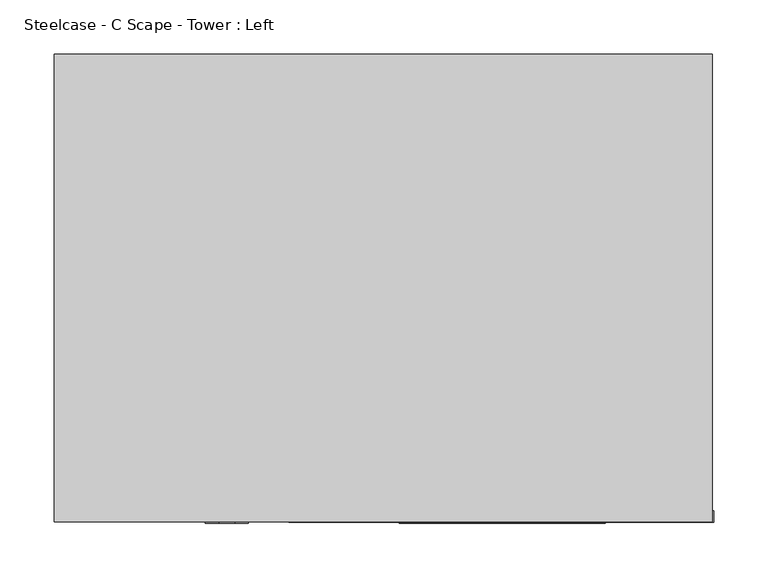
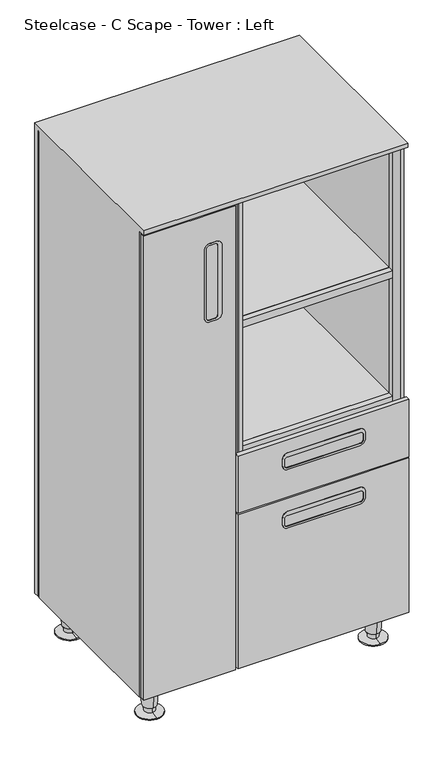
"""IFC4 building model written with IfcOpenShell, lengths in millimetres: furniture geometry, Steelcase - C Scape - Tower : Left."""

from ifc_helpers import new_model, si_unit, point, frame, frame_2d, origin, place, context, project, spatial, polyline, circle_curve, trimmed, segment, composite_curve, outline, extrude, faceted_brep, source, transform, mapped, element, save
from ifc_brep_helpers import plane_surface, cylinder_surface, revolved_surface, advanced_brep


def steelcase_c_scape_tower_left_5157d071(model_context):
    return source(origin(), model_context, "Body", "SolidModel", [
        extrude(outline(polyline([(11.4553938, -397.129), (21.4631163, -397.129), (21.4631163, -412.115), (9.415402, -419.3540543), (0.2711927, -419.3540543), (0.2711927, -414.9089767), (11.4553938, -414.9089767), (11.4553938, -397.129)])), frame((0.0, 0.0, 76.2), z_axis=(0.0, 0.0, 1.0), x_axis=(1.0, 0.0, 0.0)), (0.0, 0.0, 1.0), 1132.84),
        extrude(outline(polyline([(595.3505674, -397.129), (595.3505674, -414.9089767), (606.5347685, -414.9089767), (606.5347685, -419.3540543), (597.3905592, -419.3540543), (585.342845, -412.115), (585.342845, -397.129), (595.3505674, -397.129)])), frame((0.0, 0.0, 76.2), z_axis=(0.0, 0.0, 1.0), x_axis=(1.0, 0.0, 0.0)), (0.0, 0.0, 1.0), 1132.84),
        extrude(outline(polyline([(11.4553938, -35.9409322), (11.4553938, -18.1609554), (0.2711927, -18.1609554), (0.2711927, -13.7158779), (9.415402, -13.7158779), (21.4631163, -20.9549322), (21.4631163, -35.9409322), (11.4553938, -35.9409322)])), frame((0.0, 0.0, 76.2), z_axis=(0.0, 0.0, 1.0), x_axis=(1.0, 0.0, 0.0)), (0.0, 0.0, 1.0), 1132.84),
        extrude(outline(polyline([(595.3505674, -35.9409322), (585.342845, -35.9409322), (585.342845, -20.9549322), (597.3905592, -13.7158779), (606.5347685, -13.7158779), (606.5347685, -18.1609554), (595.3505674, -18.1609554), (595.3505674, -35.9409322)])), frame((0.0, 0.0, 76.2), z_axis=(0.0, 0.0, 1.0), x_axis=(1.0, 0.0, 0.0)), (0.0, 0.0, 1.0), 1132.84),
        faceted_brep([(607.695, 0.0, 1219.2), (-0.635, 0.0, 1219.2), (-0.635, -433.0699322, 1219.2), (607.695, -433.0699322, 1219.2), (607.695, -433.0699322, 1209.04), (-0.635, -433.0699322, 1209.04), (-0.635, -414.9089767, 1209.04), (11.4553938, -414.9089767, 1209.04), (11.4553938, -397.129, 1209.04), (21.5898062, -397.129, 1209.04), (21.5898062, -35.941, 1209.04), (11.4553938, -35.941, 1209.04), (11.4553938, -18.1610281, 1209.04), (-0.635, -18.1610281, 1209.04), (-0.635, -10.540999, 1209.04), (607.695, -10.540999, 1209.04), (607.695, -18.1610281, 1209.04), (595.3505674, -18.1610281, 1209.04), (595.3505674, -35.941, 1209.04), (585.3431163, -35.941, 1209.04), (585.3431163, -397.129, 1209.04), (595.3505674, -397.129, 1209.04), (595.3505674, -414.9089767, 1209.04), (607.695, -414.9089767, 1209.04), (607.822, 0.0, 76.2), (-0.508, 0.0, 76.2), (-0.635, -10.540999, 76.2), (-0.635, -18.1610281, 76.2), (-0.635, -414.9089767, 76.2), (607.695, -414.9089767, 76.2), (607.695, -18.1610281, 76.2), (607.695, -10.540999, 76.2), (11.4553938, -18.1610281, 76.2), (11.4553938, -35.941, 76.2), (21.5898062, -35.941, 76.2), (21.5898062, -397.129, 76.2), (11.4553938, -397.129, 76.2), (11.4553938, -414.9089767, 76.2), (595.3505674, -18.1610281, 76.2), (595.3505674, -414.9089767, 76.2), (595.3505674, -397.129, 76.2), (585.3431163, -397.129, 76.2), (585.3431163, -35.941, 76.2), (595.3505674, -35.941, 76.2)], [[[0, 1, 2, 3]], [[4, 5, 6, 7, 8, 9, 10, 11, 12, 13, 14, 15, 16, 17, 18, 19, 20, 21, 22, 23]], [[1, 0, 24, 25]], [[2, 1, 25, 26, 14, 13, 27, 28, 6, 5]], [[3, 2, 5, 4]], [[24, 0, 3, 4, 23, 29, 30, 16, 15, 31]], [[32, 33, 34, 35, 36, 37, 28, 27]], [[38, 30, 29, 39, 40, 41, 42, 43]], [[32, 27, 13, 12]], [[28, 37, 7, 6]], [[37, 36, 8, 7]], [[36, 35, 9, 8]], [[35, 34, 10, 9]], [[34, 33, 11, 10]], [[33, 32, 12, 11]], [[38, 43, 18, 17]], [[43, 42, 19, 18]], [[42, 41, 20, 19]], [[41, 40, 21, 20]], [[40, 39, 22, 21]], [[39, 29, 23, 22]], [[30, 38, 17, 16]], [[24, 31, 26, 25]], [[26, 31, 15, 14]]]),
        extrude(outline(composite_curve([segment(trimmed(circle_curve(frame_2d((394.970453, 496.3304102)), 12.7), [point((382.270453, 496.3304102))], [point((394.970453, 509.0304102))], False, "CARTESIAN"), True, "CONTINUOUS"), segment(polyline([(394.970453, 509.0304102), (409.5749879, 509.0304102)]), True, "CONTINUOUS"), segment(trimmed(circle_curve(frame_2d((409.5749879, 496.3304102)), 12.7), [point((409.5749879, 509.0304102))], [point((422.2749879, 496.3304102))], False, "CARTESIAN"), True, "CONTINUOUS"), segment(polyline([(422.2749879, 496.3304102), (422.2749879, 331.2303618)]), True, "CONTINUOUS"), segment(trimmed(circle_curve(frame_2d((409.5749879, 331.2303618)), 12.7), [point((422.2749879, 331.2303618))], [point((409.5749879, 318.5303618))], False, "CARTESIAN"), True, "CONTINUOUS"), segment(polyline([(409.5749879, 318.5303618), (394.970453, 318.5303618)]), True, "CONTINUOUS"), segment(trimmed(circle_curve(frame_2d((394.970453, 331.2303618)), 12.7), [point((394.970453, 318.5303618))], [point((382.270453, 331.2303618))], False, "CARTESIAN"), True, "CONTINUOUS"), segment(polyline([(382.270453, 331.2303618), (382.270453, 496.3304102)]), True, "CONTINUOUS")], self_intersect=False), holes=[composite_curve([segment(trimmed(circle_curve(frame_2d((406.146515, 497.8543966)), 6.35), [point((412.496515, 497.8543966))], [point((406.146515, 504.2043966))], True, "CARTESIAN"), True, "CONTINUOUS"), segment(polyline([(406.146515, 504.2043966), (393.4463212, 504.2043966)]), True, "CONTINUOUS"), segment(trimmed(circle_curve(frame_2d((393.4463212, 497.8543966)), 6.35), [point((393.4463212, 504.2043966))], [point((387.0963212, 497.8543966))], True, "CARTESIAN"), True, "CONTINUOUS"), segment(polyline([(387.0963212, 497.8543966), (387.0963212, 329.7063753)]), True, "CONTINUOUS"), segment(trimmed(circle_curve(frame_2d((393.4463212, 329.7063753)), 6.35), [point((387.0963212, 329.7063753))], [point((393.4463212, 323.3563753))], True, "CARTESIAN"), True, "CONTINUOUS"), segment(polyline([(393.4463212, 323.3563753), (406.146515, 323.3563753)]), True, "CONTINUOUS"), segment(trimmed(circle_curve(frame_2d((406.146515, 329.7063753)), 6.35), [point((406.146515, 323.3563753))], [point((412.496515, 329.7063753))], True, "CARTESIAN"), True, "CONTINUOUS"), segment(polyline([(412.496515, 329.7063753), (412.496515, 497.8543966)]), True, "CONTINUOUS")], self_intersect=False)]), frame((0.0, -434.3400581, 0.0), z_axis=(0.0, 1.0, 0.0), x_axis=(0.0, 0.0, 1.0)), (0.0, 0.0, 1.0), 1.270126),
        extrude(outline(composite_curve([segment(trimmed(circle_curve(frame_2d((537.2104627, 496.3304102)), 12.7), [point((524.5104627, 496.3304102))], [point((537.2104627, 509.0304102))], False, "CARTESIAN"), True, "CONTINUOUS"), segment(polyline([(537.2104627, 509.0304102), (551.8149976, 509.0304102)]), True, "CONTINUOUS"), segment(trimmed(circle_curve(frame_2d((551.8149976, 496.3304102)), 12.7), [point((551.8149976, 509.0304102))], [point((564.5149976, 496.3304102))], False, "CARTESIAN"), True, "CONTINUOUS"), segment(polyline([(564.5149976, 496.3304102), (564.5149976, 331.2303618)]), True, "CONTINUOUS"), segment(trimmed(circle_curve(frame_2d((551.8149976, 331.2303618)), 12.7), [point((564.5149976, 331.2303618))], [point((551.8149976, 318.5303618))], False, "CARTESIAN"), True, "CONTINUOUS"), segment(polyline([(551.8149976, 318.5303618), (537.2104627, 318.5303618)]), True, "CONTINUOUS"), segment(trimmed(circle_curve(frame_2d((537.2104627, 331.2303618)), 12.7), [point((537.2104627, 318.5303618))], [point((524.5104627, 331.2303618))], False, "CARTESIAN"), True, "CONTINUOUS"), segment(polyline([(524.5104627, 331.2303618), (524.5104627, 496.3304102)]), True, "CONTINUOUS")], self_intersect=False), holes=[composite_curve([segment(trimmed(circle_curve(frame_2d((548.3865247, 497.8543966)), 6.35), [point((554.7365247, 497.8543966))], [point((548.3865247, 504.2043966))], True, "CARTESIAN"), True, "CONTINUOUS"), segment(polyline([(548.3865247, 504.2043966), (535.6863309, 504.2043966)]), True, "CONTINUOUS"), segment(trimmed(circle_curve(frame_2d((535.6863309, 497.8543966)), 6.35), [point((535.6863309, 504.2043966))], [point((529.3363309, 497.8543966))], True, "CARTESIAN"), True, "CONTINUOUS"), segment(polyline([(529.3363309, 497.8543966), (529.3363309, 329.7063753)]), True, "CONTINUOUS"), segment(trimmed(circle_curve(frame_2d((535.6863309, 329.7063753)), 6.35), [point((529.3363309, 329.7063753))], [point((535.6863309, 323.3563753))], True, "CARTESIAN"), True, "CONTINUOUS"), segment(polyline([(535.6863309, 323.3563753), (548.3865247, 323.3563753)]), True, "CONTINUOUS"), segment(trimmed(circle_curve(frame_2d((548.3865247, 329.7063753)), 6.35), [point((548.3865247, 323.3563753))], [point((554.7365247, 329.7063753))], True, "CARTESIAN"), True, "CONTINUOUS"), segment(polyline([(554.7365247, 329.7063753), (554.7365247, 497.8543966)]), True, "CONTINUOUS")], self_intersect=False)]), frame((0.0, -434.3400581, 0.0), z_axis=(0.0, 1.0, 0.0), x_axis=(0.0, 0.0, 1.0)), (0.0, 0.0, 1.0), 1.270126),
        extrude(outline(polyline([(609.4726434, -422.5290058), (609.4726434, -433.0699322), (216.535, -433.0699322), (216.535, -422.5290058), (609.4726434, -422.5290058)])), frame((0.0, 0.0, 79.374997), z_axis=(0.0, 0.0, 1.0), x_axis=(1.0, 0.0, 0.0)), (0.0, 0.0, 1.0), 374.6500151),
        extrude(outline(polyline([(609.4726434, -422.5290058), (609.4726434, -433.0699322), (216.535, -433.0699322), (216.535, -422.5290058), (609.4726434, -422.5290058)])), frame((0.0, 0.0, 457.2), z_axis=(0.0, 0.0, 1.0), x_axis=(1.0, 0.0, 0.0)), (0.0, 0.0, 1.0), 139.0649855),
        extrude(outline(polyline([(210.693, -422.5290058), (210.693, -433.0699322), (-0.0001473, -433.0699322), (-0.0001473, -422.5290058), (210.693, -422.5290058)])), frame((0.0, 0.0, 79.374997), z_axis=(0.0, 0.0, 1.0), x_axis=(1.0, 0.0, 0.0)), (0.0, 0.0, 1.0), 1126.4899885),
        faceted_brep([(21.5898062, -397.129, 92.7100024), (21.5898062, -35.941, 92.7100024), (21.5898062, -35.941, 76.2), (21.5898062, -397.129, 76.2), (21.5898062, -397.1289574, 903.7827702), (21.5898062, -35.941, 903.7827702), (21.5898062, -35.941, 887.2727411), (21.5898062, -397.1289574, 887.2727411), (21.5898062, -397.129, 599.4400097), (21.5898062, -35.941, 599.4400097), (21.5898062, -35.941, 583.8444137), (21.5898062, -397.129, 583.8444137), (585.4699225, -397.129, 92.7100024), (585.4699225, -397.129, 76.2), (585.4699225, -35.941, 76.2), (585.4699225, -35.941, 92.7100024), (585.4699225, -397.1289574, 903.7827702), (585.4699225, -397.1289574, 887.2727411), (585.4699225, -35.941, 887.2727411), (585.4699225, -35.941, 903.7827702), (585.4699225, -397.129, 599.4400097), (585.4699225, -397.129, 583.8444137), (585.4699225, -35.941, 583.8444137), (585.4699225, -35.941, 599.4400097), (212.725, -397.129, 92.7100024), (212.725, -35.941, 92.7100024), (234.9498062, -35.941, 92.7100024), (234.9498062, -397.129, 92.7100024), (234.9498062, -397.129, 583.8444137), (234.9498062, -397.129, 599.4400097), (234.9498062, -397.129, 887.2727411), (234.9498062, -397.129, 903.7827702), (234.9498062, -397.129, 1192.5299709), (212.725, -397.129, 1192.5299709), (212.725, -397.129, 903.7827702), (212.725, -397.129, 887.2727411), (212.725, -397.129, 599.4400097), (212.725, -397.129, 583.8444137), (212.725, -35.941, 903.7827702), (234.9498062, -35.941, 903.7827702), (212.725, -35.941, 887.2727411), (234.9498062, -35.941, 887.2727411), (212.725, -35.941, 599.4400097), (234.9498062, -35.941, 599.4400097), (212.725, -35.941, 583.8444137), (234.9498062, -35.941, 583.8444137), (234.9498062, -18.1610281, 1192.5299709), (212.725, -18.1610281, 1192.5299709), (212.725, -18.1610281, 92.7100024), (234.9498062, -18.1610281, 92.7100024)], [[[0, 1, 2, 3]], [[4, 5, 6, 7]], [[8, 9, 10, 11]], [[12, 13, 14, 15]], [[16, 17, 18, 19]], [[20, 21, 22, 23]], [[1, 0, 24, 25]], [[12, 15, 26, 27]], [[2, 1, 25, 26, 15, 14]], [[3, 2, 14, 13]], [[0, 3, 13, 12, 27, 28, 21, 20, 29, 30, 17, 16, 31, 32, 33, 34, 4, 7, 35, 36, 8, 11, 37, 24]], [[5, 4, 34, 38]], [[16, 19, 39, 31]], [[6, 5, 38, 40]], [[19, 18, 41, 39]], [[7, 6, 40, 35]], [[18, 17, 30, 41]], [[9, 8, 36, 42]], [[20, 23, 43, 29]], [[10, 9, 42, 44]], [[23, 22, 45, 43]], [[11, 10, 44, 37]], [[22, 21, 28, 45]], [[46, 47, 33, 32]], [[48, 49, 26, 25]], [[47, 46, 49, 48]], [[33, 47, 48, 25, 24, 37, 44, 42, 36, 35, 40, 38, 34]], [[46, 32, 31, 39, 41, 30, 29, 43, 45, 28, 27, 26, 49]]]),
        faceted_brep([(585.47, -35.9409109, 1209.0400097), (585.47, -35.9409109, 1192.5299806), (585.47, -21.7168217, 1192.5299806), (585.47, -21.7168217, 1209.0400097), (21.5898062, -35.9409109, 1209.0400097), (21.5898062, -21.7168217, 1209.0400097), (21.5898062, -21.7168217, 1192.5299806), (21.5898062, -35.9409109, 1192.5299806)], [[[0, 1, 2, 3]], [[4, 5, 6, 7]], [[1, 0, 4, 7]], [[2, 1, 7, 6]], [[3, 2, 6, 5]], [[0, 3, 5, 4]]]),
        faceted_brep([(585.47, -411.3529438, 1209.0400097), (585.47, -411.3529438, 1192.5299806), (585.47, -397.1289574, 1192.5299806), (585.47, -397.1289574, 1209.0400097), (585.47, -411.3529438, 599.4400097), (585.47, -411.3529438, 583.8444137), (585.47, -397.1289574, 583.8444137), (585.47, -397.1289574, 599.4400097), (585.47, -411.3529438, 92.7100024), (585.47, -411.3529438, 76.2), (585.47, -397.1289574, 76.2), (585.47, -397.1289574, 92.7100024), (585.47, -411.3529438, 903.7827702), (585.47, -411.3529438, 887.2727411), (585.47, -397.1289574, 887.2727411), (585.47, -397.1289574, 903.7827702), (21.5898062, -411.3529438, 1209.0400097), (21.5898062, -397.1289574, 1209.0400097), (21.5898062, -397.1289574, 1192.5299806), (21.5898062, -411.3529438, 1192.5299806), (21.5898062, -411.3529438, 599.4400097), (21.5898062, -397.1289574, 599.4400097), (21.5898062, -397.1289574, 583.8444137), (21.5898062, -411.3529438, 583.8444137), (21.5898062, -411.3529438, 92.7100024), (21.5898062, -397.1289574, 92.7100024), (21.5898062, -397.1289574, 76.2), (21.5898062, -411.3529438, 76.2), (21.5898062, -411.3529438, 903.7827702), (21.5898062, -397.1289574, 903.7827702), (21.5898062, -397.1289574, 887.2727411), (21.5898062, -411.3529438, 887.2727411), (234.9498062, -411.3529438, 1209.0400097), (234.9498062, -411.3529438, 1192.5299806), (212.725, -411.3529438, 1192.5299806), (212.725, -411.3529438, 1209.0400097), (234.9498062, -397.1289574, 1192.5299806), (212.725, -397.1289574, 1192.5299806), (234.9498062, -397.1289574, 903.7827702), (234.9498062, -397.1289574, 887.2727411), (234.9498062, -397.1289574, 599.4400097), (234.9498062, -397.1289574, 583.8444137), (234.9498062, -397.1289574, 92.71), (212.725, -397.1289574, 92.7100024), (212.725, -397.1289574, 583.8444137), (212.725, -397.1289574, 599.4400097), (212.725, -397.1289574, 887.2727411), (212.725, -397.1289574, 903.7827702), (212.725, -419.3540543, 1209.0400097), (222.411618, -419.3540543, 1209.0400097), (223.8374031, -418.5308579, 1209.0400097), (225.2631882, -419.3540543, 1209.0400097), (234.9498062, -419.3540543, 1209.0400097), (234.9498062, -411.3529438, 599.4400097), (234.9498062, -411.3529438, 583.8444137), (212.725, -411.3529438, 583.8444137), (212.725, -411.3529438, 599.4400097), (234.9498062, -411.3529438, 92.7100024), (212.725, -411.3529438, 92.71), (234.9498062, -411.3529438, 903.7827702), (234.9498062, -411.3529438, 887.2727411), (212.725, -411.3529438, 887.2727411), (212.725, -411.3529438, 903.7827702), (234.9498062, -419.3540543, 92.71), (225.2631882, -419.3540543, 92.71), (223.8374031, -418.5308579, 92.71), (222.411618, -419.3540543, 92.71), (212.725, -419.3540543, 92.71)], [[[0, 1, 2, 3]], [[4, 5, 6, 7]], [[8, 9, 10, 11]], [[12, 13, 14, 15]], [[16, 17, 18, 19]], [[20, 21, 22, 23]], [[24, 25, 26, 27]], [[28, 29, 30, 31]], [[1, 0, 32, 33]], [[16, 19, 34, 35]], [[2, 1, 33, 36]], [[19, 18, 37, 34]], [[17, 3, 2, 36, 38, 15, 14, 39, 40, 7, 6, 41, 42, 11, 10, 26, 25, 43, 44, 22, 21, 45, 46, 30, 29, 47, 37, 18]], [[0, 3, 17, 16, 35, 48, 49, 50, 51, 52, 32]], [[5, 4, 53, 54]], [[20, 23, 55, 56]], [[6, 5, 54, 41]], [[23, 22, 44, 55]], [[4, 7, 40, 53]], [[21, 20, 56, 45]], [[9, 8, 57, 58, 24, 27]], [[10, 9, 27, 26]], [[8, 11, 42, 57]], [[25, 24, 58, 43]], [[13, 12, 59, 60]], [[28, 31, 61, 62]], [[14, 13, 60, 39]], [[31, 30, 46, 61]], [[12, 15, 38, 59]], [[29, 28, 62, 47]], [[63, 64, 65, 66, 67, 58, 57]], [[48, 35, 34, 37, 47, 62, 61, 46, 45, 56, 55, 44, 43, 58, 67]], [[64, 51, 50, 65]], [[52, 51, 64, 63]], [[32, 52, 63, 57, 42, 41, 54, 53, 40, 39, 60, 59, 38, 36, 33]], [[49, 48, 67, 66]], [[49, 66, 65, 50]]]),
        faceted_brep([(585.47, -35.9409109, 599.4400097), (585.47, -35.9409109, 583.8444137), (585.47, -21.7168217, 583.8444137), (585.47, -21.7168217, 599.4400097), (21.5898062, -35.9409109, 599.4400097), (21.5898062, -21.7168217, 599.4400097), (21.5898062, -21.7168217, 583.8444137), (21.5898062, -35.9409109, 583.8444137)], [[[0, 1, 2, 3]], [[4, 5, 6, 7]], [[1, 0, 4, 7]], [[2, 1, 7, 6]], [[3, 2, 6, 5]], [[0, 3, 5, 4]]]),
        faceted_brep([(585.47, -35.9409109, 92.7100024), (585.47, -35.9409109, 76.2), (585.47, -21.7168217, 76.2), (585.47, -21.7168217, 92.7100024), (21.5898062, -35.9409109, 92.7100024), (21.5898062, -21.7168217, 92.7100024), (21.5898062, -21.7168217, 76.2), (21.5898062, -35.9409109, 76.2)], [[[0, 1, 2, 3]], [[4, 5, 6, 7]], [[1, 0, 4, 7]], [[2, 1, 7, 6]], [[3, 2, 6, 5]], [[0, 3, 5, 4]]]),
        faceted_brep([(585.47, -35.9409109, 903.7827702), (585.47, -35.9409109, 887.2727411), (585.47, -21.7168217, 887.2727411), (585.47, -21.7168217, 903.7827702), (21.5898062, -35.9409109, 903.7827702), (21.5898062, -21.7168217, 903.7827702), (21.5898062, -21.7168217, 887.2727411), (21.5898062, -35.9409109, 887.2727411)], [[[0, 1, 2, 3]], [[4, 5, 6, 7]], [[1, 0, 4, 7]], [[2, 1, 7, 6]], [[3, 2, 6, 5]], [[0, 3, 5, 4]]]),
        extrude(outline(composite_curve([segment(trimmed(circle_curve(frame_2d((958.2149855, 151.7650465)), 12.7), [point((958.2149855, 139.0650465))], [point((945.5149855, 151.7650465))], False, "CARTESIAN"), True, "CONTINUOUS"), segment(polyline([(945.5149855, 151.7650465), (945.5149855, 166.3695814)]), True, "CONTINUOUS"), segment(trimmed(circle_curve(frame_2d((958.2149855, 166.3695814)), 12.7), [point((945.5149855, 166.3695814))], [point((958.2149855, 179.0695814))], False, "CARTESIAN"), True, "CONTINUOUS"), segment(polyline([(958.2149855, 179.0695814), (1123.3150339, 179.0695814)]), True, "CONTINUOUS"), segment(trimmed(circle_curve(frame_2d((1123.3150339, 166.3695814)), 12.7), [point((1123.3150339, 179.0695814))], [point((1136.0150339, 166.3695814))], False, "CARTESIAN"), True, "CONTINUOUS"), segment(polyline([(1136.0150339, 166.3695814), (1136.0150339, 151.7650465)]), True, "CONTINUOUS"), segment(trimmed(circle_curve(frame_2d((1123.3150339, 151.7650465)), 12.7), [point((1136.0150339, 151.7650465))], [point((1123.3150339, 139.0650465))], False, "CARTESIAN"), True, "CONTINUOUS"), segment(polyline([(1123.3150339, 139.0650465), (958.2149855, 139.0650465)]), True, "CONTINUOUS")], self_intersect=False), holes=[composite_curve([segment(trimmed(circle_curve(frame_2d((956.690999, 162.9411085)), 6.35), [point((956.690999, 169.2911085))], [point((950.340999, 162.9411085))], True, "CARTESIAN"), True, "CONTINUOUS"), segment(polyline([(950.340999, 162.9411085), (950.340999, 150.2409147)]), True, "CONTINUOUS"), segment(trimmed(circle_curve(frame_2d((956.690999, 150.2409147)), 6.35), [point((950.340999, 150.2409147))], [point((956.690999, 143.8909147))], True, "CARTESIAN"), True, "CONTINUOUS"), segment(polyline([(956.690999, 143.8909147), (1124.8390203, 143.8909147)]), True, "CONTINUOUS"), segment(trimmed(circle_curve(frame_2d((1124.8390203, 150.2409147)), 6.35), [point((1124.8390203, 143.8909147))], [point((1131.1890203, 150.2409147))], True, "CARTESIAN"), True, "CONTINUOUS"), segment(polyline([(1131.1890203, 150.2409147), (1131.1890203, 162.9411085)]), True, "CONTINUOUS"), segment(trimmed(circle_curve(frame_2d((1124.8390203, 162.9411085)), 6.35), [point((1131.1890203, 162.9411085))], [point((1124.8390203, 169.2911085))], True, "CARTESIAN"), True, "CONTINUOUS"), segment(polyline([(1124.8390203, 169.2911085), (956.690999, 169.2911085)]), True, "CONTINUOUS")], self_intersect=False)]), frame((0.0, -434.3400581, 0.0), z_axis=(0.0, 1.0, 0.0), x_axis=(0.0, 0.0, 1.0)), (0.0, 0.0, 1.0), 1.270126),
        advanced_brep(
        [(560.3960034, -27.3797531, 0.0), (560.3960034, -86.6051932, 0.0), (560.3960034, -56.9924731, 0.0), (560.3960034, -27.3797531, 2.6912335), (560.3960034, -86.6051932, 2.6912335), (560.3960034, -45.0348855, 5.8043097), (560.3960034, -68.9500608, 5.8043097), (560.3960034, -44.3407082, 19.05), (560.3960034, -69.6442381, 19.05), (560.3960034, -41.6146125, 19.05), (560.3960034, -72.3703338, 19.05), (560.3960034, -37.6182952, 76.2), (560.3960034, -76.3666511, 76.2), (560.3960034, -56.9924731, 76.2)],
        [
            (0, 1, circle_curve(frame((560.3960034, -56.9924731, 0.0), z_axis=(0.0, 0.0, -1.0), x_axis=(0.0, -1.0, 0.0)), 29.61272)),
            (1, 2),
            (2, 0),
            (1, 0, circle_curve(frame((560.3960034, -56.9924731, 0.0), z_axis=(0.0, 0.0, -1.0), x_axis=(0.0, -1.0, 0.0)), 29.61272)),
            (3, 4, circle_curve(frame((560.3960034, -56.9924731, 2.6912335), z_axis=(0.0, 0.0, -1.0), x_axis=(0.0, -1.0, 0.0)), 29.61272)),
            (4, 1),
            (0, 3),
            (4, 3, circle_curve(frame((560.3960034, -56.9924731, 2.6912335), z_axis=(0.0, 0.0, -1.0), x_axis=(0.0, -1.0, 0.0)), 29.61272)),
            (5, 6, circle_curve(frame((560.3960034, -56.9924731, 5.8043097), z_axis=(0.0, 0.0, -1.0), x_axis=(0.0, -1.0, 0.0)), 11.9575877)),
            (6, 4),
            (3, 5),
            (6, 5, circle_curve(frame((560.3960034, -56.9924731, 5.8043097), z_axis=(0.0, 0.0, -1.0), x_axis=(0.0, -1.0, 0.0)), 11.9575877)),
            (7, 8, circle_curve(frame((560.3960034, -56.9924731, 19.05), z_axis=(0.0, 0.0, -1.0), x_axis=(0.0, -1.0, 0.0)), 12.6517649)),
            (8, 6),
            (5, 7),
            (8, 7, circle_curve(frame((560.3960034, -56.9924731, 19.05), z_axis=(0.0, 0.0, -1.0), x_axis=(0.0, -1.0, 0.0)), 12.6517649)),
            (9, 10, circle_curve(frame((560.3960034, -56.9924731, 19.05), z_axis=(0.0, 0.0, -1.0), x_axis=(0.0, -1.0, 0.0)), 15.3778607)),
            (10, 8),
            (7, 9),
            (10, 9, circle_curve(frame((560.3960034, -56.9924731, 19.05), z_axis=(0.0, 0.0, -1.0), x_axis=(0.0, -1.0, 0.0)), 15.3778607)),
            (11, 12, circle_curve(frame((560.3960034, -56.9924731, 76.2), z_axis=(0.0, 0.0, -1.0), x_axis=(0.0, -1.0, 0.0)), 19.374178)),
            (12, 10),
            (9, 11),
            (12, 11, circle_curve(frame((560.3960034, -56.9924731, 76.2), z_axis=(0.0, 0.0, -1.0), x_axis=(0.0, -1.0, 0.0)), 19.374178)),
            (13, 12),
            (11, 13),
        ],
        [
            plane_surface(frame((560.3960034, -56.9924731, 0.0), z_axis=(0.0, 0.0, -1.0), x_axis=(0.0, -1.0, 0.0))),
            cylinder_surface(frame((560.3960034, -56.9924731, -7.7422201), z_axis=(0.0, 0.0, 1.0), x_axis=(0.0, -1.0, 0.0)), 29.61272),
            revolved_surface(polyline([(560.3960034, -86.6051932, 2.6912335), (560.3960034, -68.9500608, 5.8043097)]), (560.3960034, -56.9924731, -7.7422201), (0.0, 0.0, 1.0)),
            revolved_surface(polyline([(560.3960034, -68.9500608, 5.8043097), (560.3960034, -69.6442381, 19.05)]), (560.3960034, -56.9924731, -7.7422201), (0.0, 0.0, 1.0)),
            plane_surface(frame((560.3960034, -56.9924731, 19.05), z_axis=(0.0, 0.0, -1.0), x_axis=(0.0, -1.0, 0.0))),
            revolved_surface(polyline([(560.3960034, -72.3703338, 19.05), (560.3960034, -76.3666511, 76.2)]), (560.3960034, -56.9924731, -7.7422201), (0.0, 0.0, 1.0)),
            plane_surface(frame((560.3960034, -56.9924731, 76.2), z_axis=(0.0, 0.0, 1.0), x_axis=(0.0, -1.0, 0.0))),
        ],
        [
            (0, [[1, 2, 3]]),
            (0, [[4, -3, -2]]),
            (1, [[5, 6, -1, 7]]),
            (1, [[8, -7, -4, -6]]),
            (2, [[9, 10, -5, 11]]),
            (2, [[12, -11, -8, -10]]),
            (3, [[13, 14, -9, 15]]),
            (3, [[16, -15, -12, -14]]),
            (4, [[17, 18, -13, 19]]),
            (4, [[20, -19, -16, -18]]),
            (5, [[21, 22, -17, 23]]),
            (5, [[24, -23, -20, -22]]),
            (6, [[25, -21, 26]]),
            (6, [[-26, -24, -25]]),
        ],
    ),
        advanced_brep(
        [(46.0460034, -27.3797531, 0.0), (46.0460034, -86.6051932, 0.0), (46.0460034, -56.9924731, 0.0), (46.0460034, -27.3797531, 2.6912335), (46.0460034, -86.6051932, 2.6912335), (46.0460034, -45.0348855, 5.8043097), (46.0460034, -68.9500608, 5.8043097), (46.0460034, -44.3407082, 19.05), (46.0460034, -69.6442381, 19.05), (46.0460034, -41.6146125, 19.05), (46.0460034, -72.3703338, 19.05), (46.0460034, -37.6182952, 76.2), (46.0460034, -76.3666511, 76.2), (46.0460034, -56.9924731, 76.2)],
        [
            (0, 1, circle_curve(frame((46.0460034, -56.9924731, 0.0), z_axis=(0.0, 0.0, -1.0), x_axis=(0.0, -1.0, 0.0)), 29.61272)),
            (1, 2),
            (2, 0),
            (1, 0, circle_curve(frame((46.0460034, -56.9924731, 0.0), z_axis=(0.0, 0.0, -1.0), x_axis=(0.0, -1.0, 0.0)), 29.61272)),
            (3, 4, circle_curve(frame((46.0460034, -56.9924731, 2.6912335), z_axis=(0.0, 0.0, -1.0), x_axis=(0.0, -1.0, 0.0)), 29.61272)),
            (4, 1),
            (0, 3),
            (4, 3, circle_curve(frame((46.0460034, -56.9924731, 2.6912335), z_axis=(0.0, 0.0, -1.0), x_axis=(0.0, -1.0, 0.0)), 29.61272)),
            (5, 6, circle_curve(frame((46.0460034, -56.9924731, 5.8043097), z_axis=(0.0, 0.0, -1.0), x_axis=(0.0, -1.0, 0.0)), 11.9575877)),
            (6, 4),
            (3, 5),
            (6, 5, circle_curve(frame((46.0460034, -56.9924731, 5.8043097), z_axis=(0.0, 0.0, -1.0), x_axis=(0.0, -1.0, 0.0)), 11.9575877)),
            (7, 8, circle_curve(frame((46.0460034, -56.9924731, 19.05), z_axis=(0.0, 0.0, -1.0), x_axis=(0.0, -1.0, 0.0)), 12.6517649)),
            (8, 6),
            (5, 7),
            (8, 7, circle_curve(frame((46.0460034, -56.9924731, 19.05), z_axis=(0.0, 0.0, -1.0), x_axis=(0.0, -1.0, 0.0)), 12.6517649)),
            (9, 10, circle_curve(frame((46.0460034, -56.9924731, 19.05), z_axis=(0.0, 0.0, -1.0), x_axis=(0.0, -1.0, 0.0)), 15.3778607)),
            (10, 8),
            (7, 9),
            (10, 9, circle_curve(frame((46.0460034, -56.9924731, 19.05), z_axis=(0.0, 0.0, -1.0), x_axis=(0.0, -1.0, 0.0)), 15.3778607)),
            (11, 12, circle_curve(frame((46.0460034, -56.9924731, 76.2), z_axis=(0.0, 0.0, -1.0), x_axis=(0.0, -1.0, 0.0)), 19.374178)),
            (12, 10),
            (9, 11),
            (12, 11, circle_curve(frame((46.0460034, -56.9924731, 76.2), z_axis=(0.0, 0.0, -1.0), x_axis=(0.0, -1.0, 0.0)), 19.374178)),
            (13, 12),
            (11, 13),
        ],
        [
            plane_surface(frame((46.0460034, -56.9924731, 0.0), z_axis=(0.0, 0.0, -1.0), x_axis=(0.0, -1.0, 0.0))),
            cylinder_surface(frame((46.0460034, -56.9924731, -7.7422201), z_axis=(0.0, 0.0, 1.0), x_axis=(0.0, -1.0, 0.0)), 29.61272),
            revolved_surface(polyline([(46.0460034, -86.6051932, 2.6912335), (46.0460034, -68.9500608, 5.8043097)]), (46.0460034, -56.9924731, -7.7422201), (0.0, 0.0, 1.0)),
            revolved_surface(polyline([(46.0460034, -68.9500608, 5.8043097), (46.0460034, -69.6442381, 19.05)]), (46.0460034, -56.9924731, -7.7422201), (0.0, 0.0, 1.0)),
            plane_surface(frame((46.0460034, -56.9924731, 19.05), z_axis=(0.0, 0.0, -1.0), x_axis=(0.0, -1.0, 0.0))),
            revolved_surface(polyline([(46.0460034, -72.3703338, 19.05), (46.0460034, -76.3666511, 76.2)]), (46.0460034, -56.9924731, -7.7422201), (0.0, 0.0, 1.0)),
            plane_surface(frame((46.0460034, -56.9924731, 76.2), z_axis=(0.0, 0.0, 1.0), x_axis=(0.0, -1.0, 0.0))),
        ],
        [
            (0, [[1, 2, 3]]),
            (0, [[4, -3, -2]]),
            (1, [[5, 6, -1, 7]]),
            (1, [[8, -7, -4, -6]]),
            (2, [[9, 10, -5, 11]]),
            (2, [[12, -11, -8, -10]]),
            (3, [[13, 14, -9, 15]]),
            (3, [[16, -15, -12, -14]]),
            (4, [[17, 18, -13, 19]]),
            (4, [[20, -19, -16, -18]]),
            (5, [[21, 22, -17, 23]]),
            (5, [[24, -23, -20, -22]]),
            (6, [[25, -21, 26]]),
            (6, [[-26, -24, -25]]),
        ],
    ),
        advanced_brep(
        [(560.3960034, -395.451637, 76.2), (560.3960034, -356.703281, 76.2), (560.3960034, -376.077459, 76.2), (560.3960034, -391.4553197, 19.05), (560.3960034, -360.6995983, 19.05), (560.3960034, -388.7292239, 19.05), (560.3960034, -363.4256941, 19.05), (560.3960034, -388.0350467, 5.8043097), (560.3960034, -364.1198713, 5.8043097), (560.3960034, -405.690179, 2.6912335), (560.3960034, -346.464739, 2.6912335), (560.3960034, -405.690179, 0.0), (560.3960034, -346.464739, 0.0), (560.3960034, -376.077459, 0.0)],
        [
            (0, 1, circle_curve(frame((560.3960034, -376.077459, 76.2), z_axis=(0.0, 0.0, 1.0), x_axis=(0.0, 1.0, 0.0)), 19.374178)),
            (1, 2),
            (2, 0),
            (1, 0, circle_curve(frame((560.3960034, -376.077459, 76.2), z_axis=(0.0, 0.0, 1.0), x_axis=(0.0, 1.0, 0.0)), 19.374178)),
            (3, 4, circle_curve(frame((560.3960034, -376.077459, 19.05), z_axis=(0.0, 0.0, 1.0), x_axis=(0.0, 1.0, 0.0)), 15.3778607)),
            (4, 1),
            (0, 3),
            (4, 3, circle_curve(frame((560.3960034, -376.077459, 19.05), z_axis=(0.0, 0.0, 1.0), x_axis=(0.0, 1.0, 0.0)), 15.3778607)),
            (5, 6, circle_curve(frame((560.3960034, -376.077459, 19.05), z_axis=(0.0, 0.0, 1.0), x_axis=(0.0, 1.0, 0.0)), 12.6517649)),
            (6, 4),
            (3, 5),
            (6, 5, circle_curve(frame((560.3960034, -376.077459, 19.05), z_axis=(0.0, 0.0, 1.0), x_axis=(0.0, 1.0, 0.0)), 12.6517649)),
            (7, 8, circle_curve(frame((560.3960034, -376.077459, 5.8043097), z_axis=(0.0, 0.0, 1.0), x_axis=(0.0, 1.0, 0.0)), 11.9575877)),
            (8, 6),
            (5, 7),
            (8, 7, circle_curve(frame((560.3960034, -376.077459, 5.8043097), z_axis=(0.0, 0.0, 1.0), x_axis=(0.0, 1.0, 0.0)), 11.9575877)),
            (9, 10, circle_curve(frame((560.3960034, -376.077459, 2.6912335), z_axis=(0.0, 0.0, 1.0), x_axis=(0.0, 1.0, 0.0)), 29.61272)),
            (10, 8),
            (7, 9),
            (10, 9, circle_curve(frame((560.3960034, -376.077459, 2.6912335), z_axis=(0.0, 0.0, 1.0), x_axis=(0.0, 1.0, 0.0)), 29.61272)),
            (11, 12, circle_curve(frame((560.3960034, -376.077459, 0.0), z_axis=(0.0, 0.0, 1.0), x_axis=(0.0, 1.0, 0.0)), 29.61272)),
            (12, 10),
            (9, 11),
            (12, 11, circle_curve(frame((560.3960034, -376.077459, 0.0), z_axis=(0.0, 0.0, 1.0), x_axis=(0.0, 1.0, 0.0)), 29.61272)),
            (13, 12),
            (11, 13),
        ],
        [
            plane_surface(frame((560.3960034, -376.077459, 76.2), z_axis=(0.0, 0.0, 1.0), x_axis=(0.0, 1.0, 0.0))),
            revolved_surface(polyline([(560.3960034, -356.703281, 76.2), (560.3960034, -360.6995983, 19.05)]), (560.3960034, -376.077459, -7.7422201), (0.0, 0.0, -1.0)),
            plane_surface(frame((560.3960034, -376.077459, 19.05), z_axis=(0.0, 0.0, -1.0), x_axis=(0.0, 1.0, 0.0))),
            revolved_surface(polyline([(560.3960034, -363.4256941, 19.05), (560.3960034, -364.1198713, 5.8043097)]), (560.3960034, -376.077459, -7.7422201), (0.0, 0.0, -1.0)),
            revolved_surface(polyline([(560.3960034, -364.1198713, 5.8043097), (560.3960034, -346.464739, 2.6912335)]), (560.3960034, -376.077459, -7.7422201), (0.0, 0.0, -1.0)),
            cylinder_surface(frame((560.3960034, -376.077459, -7.7422201), z_axis=(0.0, 0.0, -1.0), x_axis=(0.0, 1.0, 0.0)), 29.61272),
            plane_surface(frame((560.3960034, -376.077459, 0.0), z_axis=(0.0, 0.0, -1.0), x_axis=(0.0, 1.0, 0.0))),
        ],
        [
            (0, [[1, 2, 3]]),
            (0, [[4, -3, -2]]),
            (1, [[5, 6, -1, 7]]),
            (1, [[8, -7, -4, -6]]),
            (2, [[9, 10, -5, 11]]),
            (2, [[12, -11, -8, -10]]),
            (3, [[13, 14, -9, 15]]),
            (3, [[16, -15, -12, -14]]),
            (4, [[17, 18, -13, 19]]),
            (4, [[20, -19, -16, -18]]),
            (5, [[21, 22, -17, 23]]),
            (5, [[24, -23, -20, -22]]),
            (6, [[25, -21, 26]]),
            (6, [[-26, -24, -25]]),
        ],
    ),
        advanced_brep(
        [(46.0460034, -395.451637, 76.2), (46.0460034, -356.703281, 76.2), (46.0460034, -376.077459, 76.2), (46.0460034, -391.4553197, 19.05), (46.0460034, -360.6995983, 19.05), (46.0460034, -388.7292239, 19.05), (46.0460034, -363.4256941, 19.05), (46.0460034, -388.0350467, 5.8043097), (46.0460034, -364.1198713, 5.8043097), (46.0460034, -405.690179, 2.6912335), (46.0460034, -346.464739, 2.6912335), (46.0460034, -405.690179, 0.0), (46.0460034, -346.464739, 0.0), (46.0460034, -376.077459, 0.0)],
        [
            (0, 1, circle_curve(frame((46.0460034, -376.077459, 76.2), z_axis=(0.0, 0.0, 1.0), x_axis=(0.0, 1.0, 0.0)), 19.374178)),
            (1, 2),
            (2, 0),
            (1, 0, circle_curve(frame((46.0460034, -376.077459, 76.2), z_axis=(0.0, 0.0, 1.0), x_axis=(0.0, 1.0, 0.0)), 19.374178)),
            (3, 4, circle_curve(frame((46.0460034, -376.077459, 19.05), z_axis=(0.0, 0.0, 1.0), x_axis=(0.0, 1.0, 0.0)), 15.3778607)),
            (4, 1),
            (0, 3),
            (4, 3, circle_curve(frame((46.0460034, -376.077459, 19.05), z_axis=(0.0, 0.0, 1.0), x_axis=(0.0, 1.0, 0.0)), 15.3778607)),
            (5, 6, circle_curve(frame((46.0460034, -376.077459, 19.05), z_axis=(0.0, 0.0, 1.0), x_axis=(0.0, 1.0, 0.0)), 12.6517649)),
            (6, 4),
            (3, 5),
            (6, 5, circle_curve(frame((46.0460034, -376.077459, 19.05), z_axis=(0.0, 0.0, 1.0), x_axis=(0.0, 1.0, 0.0)), 12.6517649)),
            (7, 8, circle_curve(frame((46.0460034, -376.077459, 5.8043097), z_axis=(0.0, 0.0, 1.0), x_axis=(0.0, 1.0, 0.0)), 11.9575877)),
            (8, 6),
            (5, 7),
            (8, 7, circle_curve(frame((46.0460034, -376.077459, 5.8043097), z_axis=(0.0, 0.0, 1.0), x_axis=(0.0, 1.0, 0.0)), 11.9575877)),
            (9, 10, circle_curve(frame((46.0460034, -376.077459, 2.6912335), z_axis=(0.0, 0.0, 1.0), x_axis=(0.0, 1.0, 0.0)), 29.61272)),
            (10, 8),
            (7, 9),
            (10, 9, circle_curve(frame((46.0460034, -376.077459, 2.6912335), z_axis=(0.0, 0.0, 1.0), x_axis=(0.0, 1.0, 0.0)), 29.61272)),
            (11, 12, circle_curve(frame((46.0460034, -376.077459, 0.0), z_axis=(0.0, 0.0, 1.0), x_axis=(0.0, 1.0, 0.0)), 29.61272)),
            (12, 10),
            (9, 11),
            (12, 11, circle_curve(frame((46.0460034, -376.077459, 0.0), z_axis=(0.0, 0.0, 1.0), x_axis=(0.0, 1.0, 0.0)), 29.61272)),
            (13, 12),
            (11, 13),
        ],
        [
            plane_surface(frame((46.0460034, -376.077459, 76.2), z_axis=(0.0, 0.0, 1.0), x_axis=(0.0, 1.0, 0.0))),
            revolved_surface(polyline([(46.0460034, -356.703281, 76.2), (46.0460034, -360.6995983, 19.05)]), (46.0460034, -376.077459, -7.7422201), (0.0, 0.0, -1.0)),
            plane_surface(frame((46.0460034, -376.077459, 19.05), z_axis=(0.0, 0.0, -1.0), x_axis=(0.0, 1.0, 0.0))),
            revolved_surface(polyline([(46.0460034, -363.4256941, 19.05), (46.0460034, -364.1198713, 5.8043097)]), (46.0460034, -376.077459, -7.7422201), (0.0, 0.0, -1.0)),
            revolved_surface(polyline([(46.0460034, -364.1198713, 5.8043097), (46.0460034, -346.464739, 2.6912335)]), (46.0460034, -376.077459, -7.7422201), (0.0, 0.0, -1.0)),
            cylinder_surface(frame((46.0460034, -376.077459, -7.7422201), z_axis=(0.0, 0.0, -1.0), x_axis=(0.0, 1.0, 0.0)), 29.61272),
            plane_surface(frame((46.0460034, -376.077459, 0.0), z_axis=(0.0, 0.0, -1.0), x_axis=(0.0, 1.0, 0.0))),
        ],
        [
            (0, [[1, 2, 3]]),
            (0, [[4, -3, -2]]),
            (1, [[5, 6, -1, 7]]),
            (1, [[8, -7, -4, -6]]),
            (2, [[9, 10, -5, 11]]),
            (2, [[12, -11, -8, -10]]),
            (3, [[13, 14, -9, 15]]),
            (3, [[16, -15, -12, -14]]),
            (4, [[17, 18, -13, 19]]),
            (4, [[20, -19, -16, -18]]),
            (5, [[21, 22, -17, 23]]),
            (5, [[24, -23, -20, -22]]),
            (6, [[25, -21, 26]]),
            (6, [[-26, -24, -25]]),
        ],
    ),
    ])


if __name__ == "__main__":
    model = new_model("IFC4")
    model_context = context("Model", 3, world=origin())
    ifc_project = project(units=[si_unit("LENGTHUNIT", "METRE", prefix="MILLI")], contexts=[model_context])
    site = spatial("IfcSite", under=ifc_project)
    building = spatial("IfcBuilding", under=site)
    placement = place(None, origin())
    steelcase_c_scape_tower_left_shape = steelcase_c_scape_tower_left_5157d071(model_context)
    element("IfcFurniture", 1, ObjectType="Steelcase - C Scape - Tower : Left", at=placement, inside=building, context=model_context, shape_type="MappedRepresentation", body=[
        mapped(steelcase_c_scape_tower_left_shape, transform((0.0, 0.0, 0.0), x_axis=(1.0, 0.0, 0.0), y_axis=(0.0, 1.0, 0.0), z_axis=(0.0, 0.0, 1.0))),
    ])
    save(model, "model.ifc")
